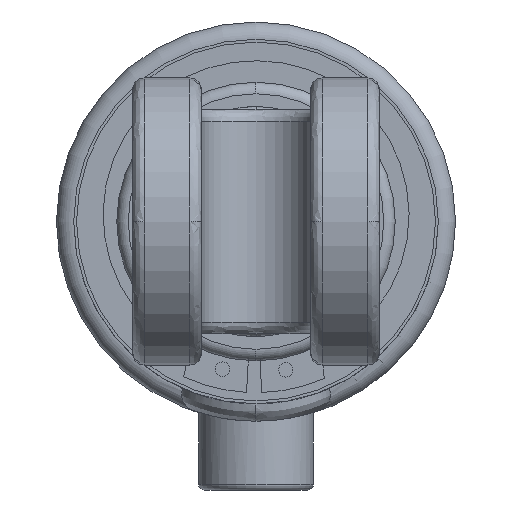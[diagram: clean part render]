
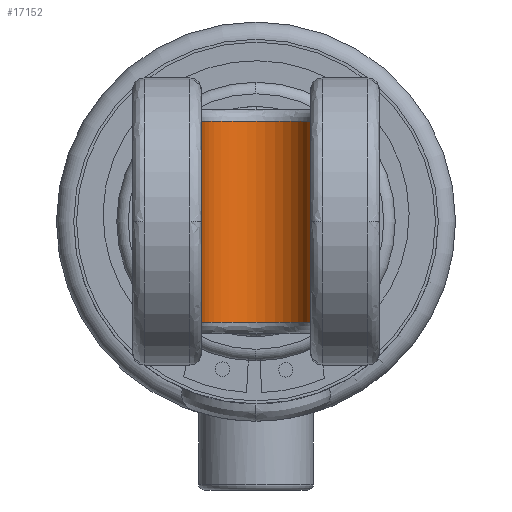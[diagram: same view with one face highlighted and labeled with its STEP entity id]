
A CAD part, left-side view. The second image highlights one B-rep face of the part: STEP entity #17152.
In plain terms, the highlighted cylindrical face has radius 9.5 mm (diameter 19 mm), a partial arc.
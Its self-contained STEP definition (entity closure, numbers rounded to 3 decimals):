
#452 = DIRECTION ( 'NONE',  ( 0., 0., -1. ) ) ;
#1111 = CARTESIAN_POINT ( 'NONE',  ( 0.293, -7.946, 17.5 ) ) ;
#2213 = CARTESIAN_POINT ( 'NONE',  ( 0.293, -7.946, -17.5 ) ) ;
#3065 = DIRECTION ( 'NONE',  ( 1., 0., 0. ) ) ;
#3150 = EDGE_CURVE ( 'NONE', #22767, #17884, #14002, .T. ) ;
#3701 = CARTESIAN_POINT ( 'NONE',  ( 0.293, -17.446, 17.5 ) ) ;
#4132 = DIRECTION ( 'NONE',  ( 1., 0., 0. ) ) ;
#4207 = DIRECTION ( 'NONE',  ( 0., 0., 1. ) ) ;
#5298 = ORIENTED_EDGE ( 'NONE', *, *, #10630, .F. ) ;
#6517 = EDGE_CURVE ( 'NONE', #19802, #22767, #11860, .T. ) ;
#6720 = AXIS2_PLACEMENT_3D ( 'NONE', #2213, #15724, #4132 ) ;
#7308 = VECTOR ( 'NONE', #18185, 1000. ) ;
#8476 = CIRCLE ( 'NONE', #6720, 9.5 ) ;
#9730 = CARTESIAN_POINT ( 'NONE',  ( 0.293, -17.446, -19.5 ) ) ;
#9823 = ORIENTED_EDGE ( 'NONE', *, *, #6517, .F. ) ;
#9923 = CARTESIAN_POINT ( 'NONE',  ( 0.293, -7.946, -19.5 ) ) ;
#10630 = EDGE_CURVE ( 'NONE', #20626, #19802, #8476, .T. ) ;
#11843 = VECTOR ( 'NONE', #452, 1000. ) ;
#11860 = LINE ( 'NONE', #9730, #7308 ) ;
#12448 = LINE ( 'NONE', #23565, #11843 ) ;
#13848 = DIRECTION ( 'NONE',  ( 1., 0., 0. ) ) ;
#13899 = EDGE_LOOP ( 'NONE', ( #9823, #5298, #16194, #21271 ) ) ;
#14002 = CIRCLE ( 'NONE', #19682, 9.5 ) ;
#14636 = DIRECTION ( 'NONE',  ( 0., 0., -1. ) ) ;
#15724 = DIRECTION ( 'NONE',  ( 0., 0., 1. ) ) ;
#16001 = EDGE_CURVE ( 'NONE', #17884, #20626, #12448, .T. ) ;
#16194 = ORIENTED_EDGE ( 'NONE', *, *, #16001, .F. ) ;
#17152 = ADVANCED_FACE ( 'NONE', ( #21127 ), #20534, .F. ) ;
#17185 = CARTESIAN_POINT ( 'NONE',  ( 0.293, -17.446, -17.5 ) ) ;
#17884 = VERTEX_POINT ( 'NONE', #22264 ) ;
#18185 = DIRECTION ( 'NONE',  ( 0., 0., 1. ) ) ;
#18606 = AXIS2_PLACEMENT_3D ( 'NONE', #9923, #4207, #13848 ) ;
#19649 = CARTESIAN_POINT ( 'NONE',  ( 0.293, 1.554, -17.5 ) ) ;
#19682 = AXIS2_PLACEMENT_3D ( 'NONE', #1111, #14636, #3065 ) ;
#19802 = VERTEX_POINT ( 'NONE', #17185 ) ;
#20534 = CYLINDRICAL_SURFACE ( 'NONE', #18606, 9.5 ) ;
#20626 = VERTEX_POINT ( 'NONE', #19649 ) ;
#21127 = FACE_OUTER_BOUND ( 'NONE', #13899, .T. ) ;
#21271 = ORIENTED_EDGE ( 'NONE', *, *, #3150, .F. ) ;
#22264 = CARTESIAN_POINT ( 'NONE',  ( 0.293, 1.554, 17.5 ) ) ;
#22767 = VERTEX_POINT ( 'NONE', #3701 ) ;
#23565 = CARTESIAN_POINT ( 'NONE',  ( 0.293, 1.554, -19.5 ) ) ;
